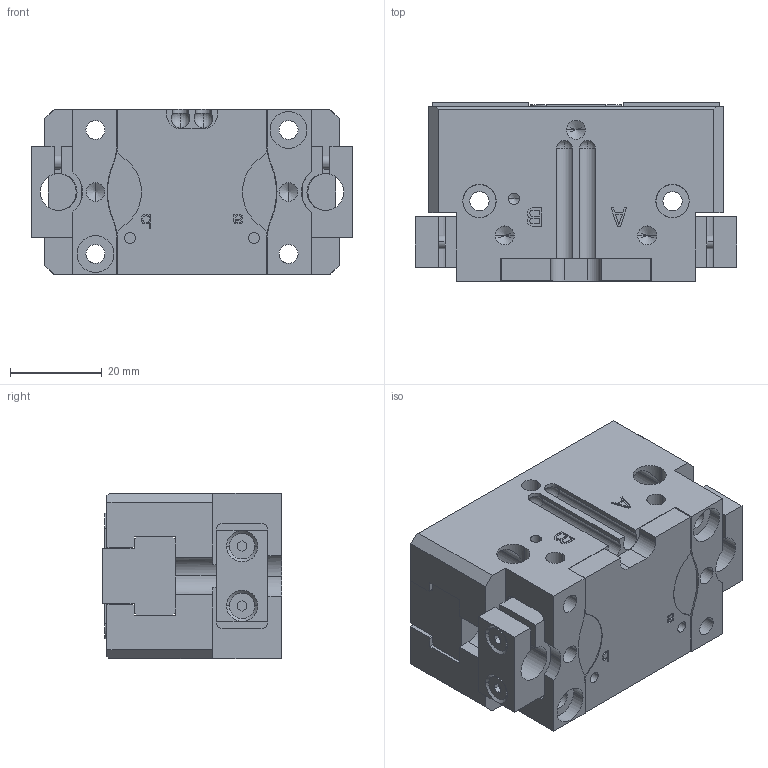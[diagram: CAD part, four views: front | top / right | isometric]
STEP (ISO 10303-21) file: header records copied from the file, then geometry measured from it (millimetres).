
FILE_DESCRIPTION (( 'STEP AP214' ), '1' );
FILE_NAME ('FPT-64A-1.STEP', '2020-07-06T07:27:28', ( '' ), ( '' ), 'SwSTEP 2.0', 'SolidWorks 2016', '' );
FILE_SCHEMA (( 'AUTOMOTIVE_DESIGN' ));
Length unit declared in the file: millimetre
Products named in the file (6): NAUO1; FPT-64A-1; NAUO8; NAUO3; NAUO2; NAUO4
Assembly tree (7 placements, depth 2):
  FPT-64A-1
    NAUO1
    NAUO2
    NAUO3
    NAUO4  x2
    NAUO8  x2
Bounding box: 70 x 39 x 36 mm (x, y, z)
Volume: 72433.8 mm3; surface area: 32099.5 mm2
Topology: 7 solids, 7 shells, 657 faces, 1761 edges, 1126 vertices
Faces by surface type: plane 373, cylinder 192, cone 88, sphere 4
Entity records: 18079 total; most frequent: CARTESIAN_POINT 3382, DIRECTION 3033, ORIENTED_EDGE 2994, EDGE_CURVE 1497, VECTOR 1051, LINE 1051, AXIS2_PLACEMENT_3D 991, VERTEX_POINT 988
